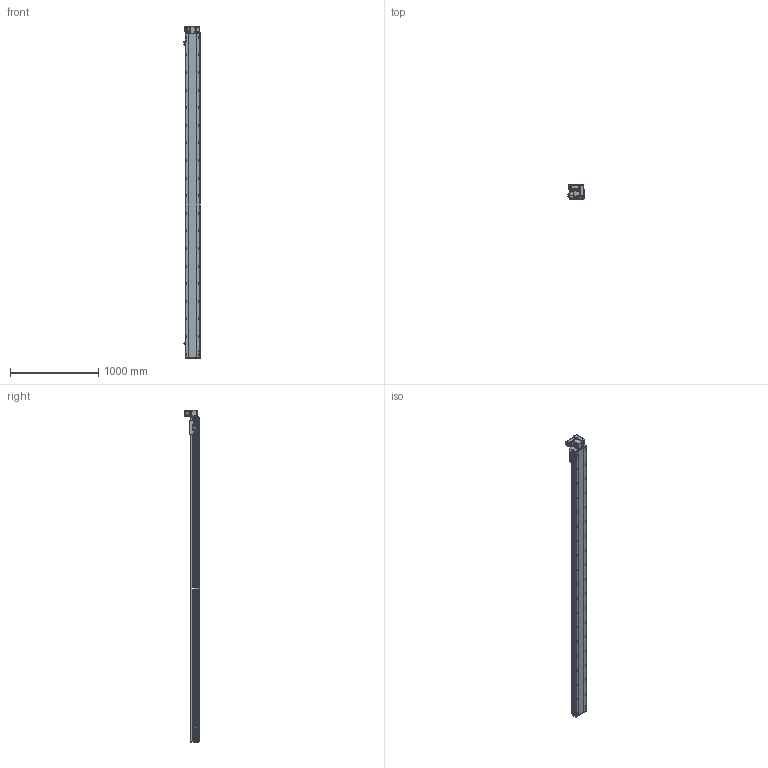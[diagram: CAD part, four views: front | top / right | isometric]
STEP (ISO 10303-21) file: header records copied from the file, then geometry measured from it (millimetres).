
FILE_DESCRIPTION (( 'STEP AP214' ), '1' );
FILE_NAME ('RTB17S-XX-3400-RW-M40-C4.STEP', '2025-12-11T09:20:10', ( '' ), ( '' ), 'SwSTEP 2.0', 'SolidWorks 2018', '' );
FILE_SCHEMA (( 'AUTOMOTIVE_DESIGN' ));
Length unit declared in the file: millimetre
Products named in the file (14): RTB14-L-017P^RTB17S-RW-々湍釱蚾饜-400W_RTB17S-XX-XX-RW-M40-C4; RTB14-L-005P--轴承塑胶压盖^RTB17S-RW-皮带座装配-400W_RTB17S-XX-XX-RW-M40-C4; RTB17S-XX-3400-RW-M40-C4; RTH13-BL-012覜茼え俋离^RTB17S-XX-XX-RW-M40-C4; 400W侜督萇儂^RTB17S-XX-XX-RW-M40-C4; RTB17-R-011菁釱^RTB17S-XX-XX-RW-M40-C4; RMP17S-L-014-T20--々湍釱^RTB17S-RW-々湍釱蚾饜-400W_RTB17S-XX-XX-RW-M40-C4; RTB14-L-008-M20--萇儂啣^RTB17S-RW-々湍釱蚾饜-400W_RTB17S-XX-XX-RW-M40-C4; RTB17S-L-001耜醱啣^RTB17S-XX-XX-RW-M40-C4; RTB17S-RW-々湍釱蚾饜-400W^RTB17S-XX-XX-RW-M40-C4; OMRON EE-SX672 传感器^RTB17S-XX-XX-RW-M40-C4; RTB17S-L-007奻裔^RTB17S-XX-XX-RW-M40-C4; RTB17S-L-004佪裝蹟譫蟀諉釱^RTB17S-XX-XX-RW-M40-C4; RTB14-L-018P^RTB17S-RW-々湍釱蚾饜-400W_RTB17S-XX-XX-RW-M40-C4
Assembly tree (16 placements, depth 3):
  RTB17S-XX-3400-RW-M40-C4
    RTB17-R-011菁釱^RTB17S-XX-XX-RW-M40-C4
    RTB17S-L-007奻裔^RTB17S-XX-XX-RW-M40-C4
    OMRON EE-SX672 传感器^RTB17S-XX-XX-RW-M40-C4  x3
    RTB17S-L-001耜醱啣^RTB17S-XX-XX-RW-M40-C4
    400W侜督萇儂^RTB17S-XX-XX-RW-M40-C4
    RTB17S-L-004佪裝蹟譫蟀諉釱^RTB17S-XX-XX-RW-M40-C4
    RTH13-BL-012覜茼え俋离^RTB17S-XX-XX-RW-M40-C4
    RTB17S-RW-々湍釱蚾饜-400W^RTB17S-XX-XX-RW-M40-C4
      RMP17S-L-014-T20--々湍釱^RTB17S-RW-々湍釱蚾饜-400W_RTB17S-XX-XX-RW-M40-C4
      RTB14-L-005P--轴承塑胶压盖^RTB17S-RW-皮带座装配-400W_RTB17S-XX-XX-RW-M40-C4
      RTB14-L-008-M20--萇儂啣^RTB17S-RW-々湍釱蚾饜-400W_RTB17S-XX-XX-RW-M40-C4
      RTB14-L-017P^RTB17S-RW-々湍釱蚾饜-400W_RTB17S-XX-XX-RW-M40-C4  x2
      RTB14-L-018P^RTB17S-RW-々湍釱蚾饜-400W_RTB17S-XX-XX-RW-M40-C4
Bounding box: 183.5 x 160.5 x 3772.5 mm (x, y, z)
Volume: 31948757.7 mm3; surface area: 3631464.8 mm2
Topology: 15 solids, 15 shells, 2397 faces, 6735 edges, 4401 vertices
Faces by surface type: plane 1092, cylinder 857, bspline 301, cone 139, torus 8
Entity records: 71849 total; most frequent: CARTESIAN_POINT 20540, ORIENTED_EDGE 10314, DIRECTION 9476, EDGE_CURVE 5157, VERTEX_POINT 3389, AXIS2_PLACEMENT_3D 3319, VECTOR 2838, LINE 2838
